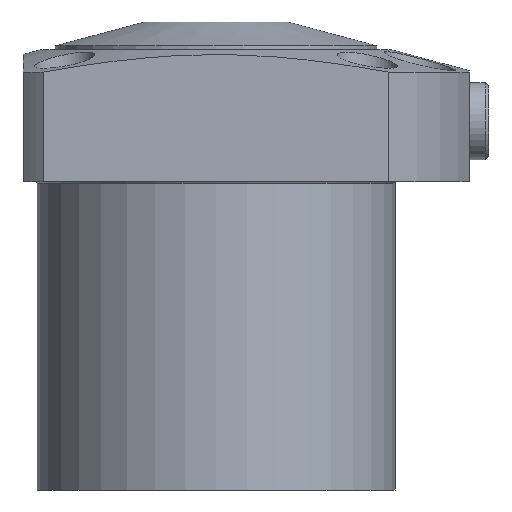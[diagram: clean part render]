
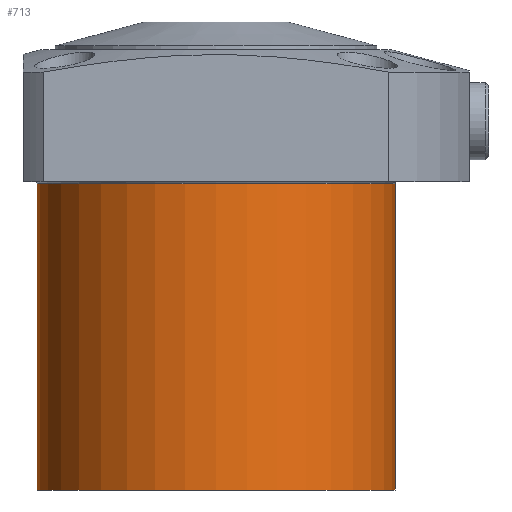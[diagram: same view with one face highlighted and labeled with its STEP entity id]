
A CAD part, front view. The second image highlights one B-rep face of the part: STEP entity #713.
In plain terms, the highlighted cylindrical face has radius 32.5 mm (diameter 65 mm), a partial arc.
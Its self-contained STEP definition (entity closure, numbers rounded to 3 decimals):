
#713=ADVANCED_FACE('',(#914),#811,.T.);
#811=CYLINDRICAL_SURFACE('',#3052,32.5);
#914=FACE_OUTER_BOUND('',#1074,.T.);
#1074=EDGE_LOOP('',(#1841,#1842,#1843,#1844));
#1189=LINE('',#4238,#1333);
#1190=LINE('',#4240,#1334);
#1333=VECTOR('',#3294,1.);
#1334=VECTOR('',#3297,1.);
#1841=ORIENTED_EDGE('',*,*,#2390,.F.);
#1842=ORIENTED_EDGE('',*,*,#2562,.T.);
#1843=ORIENTED_EDGE('',*,*,#2392,.T.);
#1844=ORIENTED_EDGE('',*,*,#2385,.T.);
#2179=VERTEX_POINT('',#4227);
#2180=VERTEX_POINT('',#4228);
#2183=VERTEX_POINT('',#4236);
#2184=VERTEX_POINT('',#4237);
#2385=EDGE_CURVE('',#2179,#2180,#2678,.T.);
#2390=EDGE_CURVE('',#2184,#2180,#1189,.T.);
#2392=EDGE_CURVE('',#2183,#2179,#1190,.T.);
#2562=EDGE_CURVE('',#2184,#2183,#2784,.T.);
#2678=CIRCLE('',#2869,32.5);
#2784=CIRCLE('',#3050,32.5);
#2869=AXIS2_PLACEMENT_3D('',#4226,#3282,#3283);
#3050=AXIS2_PLACEMENT_3D('',#4705,#3702,#3703);
#3052=AXIS2_PLACEMENT_3D('',#4707,#3706,#3707);
#3282=DIRECTION('',(0.,0.,-1.));
#3283=DIRECTION('',(-1.,0.,0.));
#3294=DIRECTION('',(0.,0.,1.));
#3297=DIRECTION('',(0.,0.,1.));
#3702=DIRECTION('',(0.,0.,1.));
#3703=DIRECTION('',(1.,0.,0.));
#3706=DIRECTION('',(0.,0.,1.));
#3707=DIRECTION('',(-1.,0.,0.));
#4226=CARTESIAN_POINT('',(0.,0.,-0.4));
#4227=CARTESIAN_POINT('',(32.5,0.,-0.4));
#4228=CARTESIAN_POINT('',(-32.5,0.,-0.4));
#4236=CARTESIAN_POINT('',(32.5,0.,-56.));
#4237=CARTESIAN_POINT('',(-32.5,0.,-56.));
#4238=CARTESIAN_POINT('',(-32.5,0.,100.));
#4240=CARTESIAN_POINT('',(32.5,0.,100.));
#4705=CARTESIAN_POINT('',(0.,0.,-56.));
#4707=CARTESIAN_POINT('',(0.,0.,100.));
